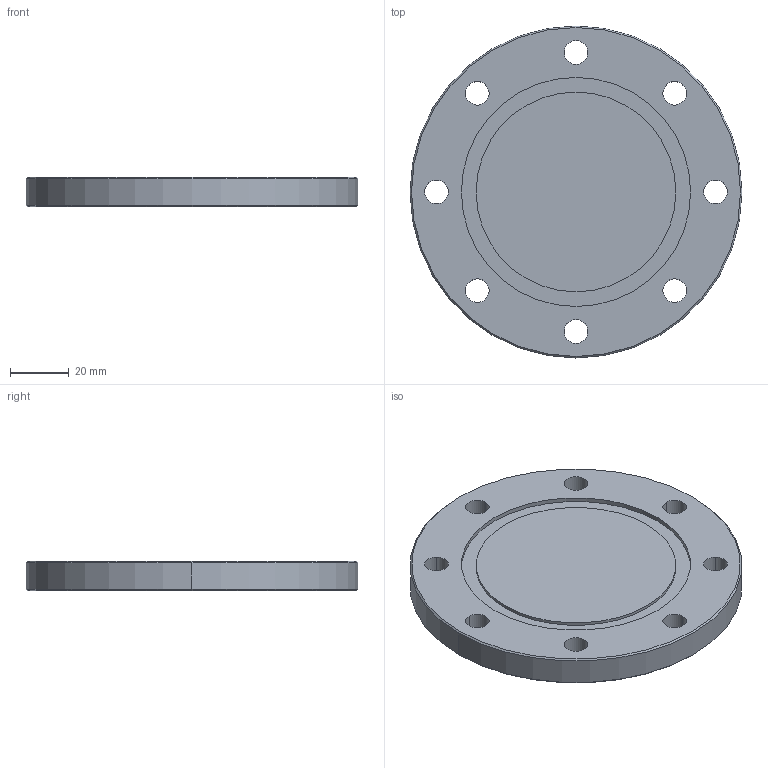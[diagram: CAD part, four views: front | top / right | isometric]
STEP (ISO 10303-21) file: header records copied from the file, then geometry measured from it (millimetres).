
FILE_DESCRIPTION (( 'STEP AP203' ), '1' );
FILE_NAME ('3D_R712_DN70_168071540.STEP', '2024-08-08T11:41:08', ( '' ), ( '' ), 'SwSTEP 2.0', 'SolidWorks 2024', '' );
FILE_SCHEMA (( 'CONFIG_CONTROL_DESIGN' ));
Length unit declared in the file: millimetre
Products named in the file (1): 3D_R712_DN70_168071540
Bounding box: 113 x 113 x 10 mm (x, y, z)
Volume: 92641.9 mm3; surface area: 25186.5 mm2
Topology: 1 solids, 1 shells, 30 faces, 74 edges, 48 vertices
Faces by surface type: cylinder 22, cone 4, plane 4
Entity records: 1023 total; most frequent: DIRECTION 184, CARTESIAN_POINT 153, ORIENTED_EDGE 148, AXIS2_PLACEMENT_3D 79, EDGE_CURVE 74, EDGE_LOOP 48, CIRCLE 48, VERTEX_POINT 48
